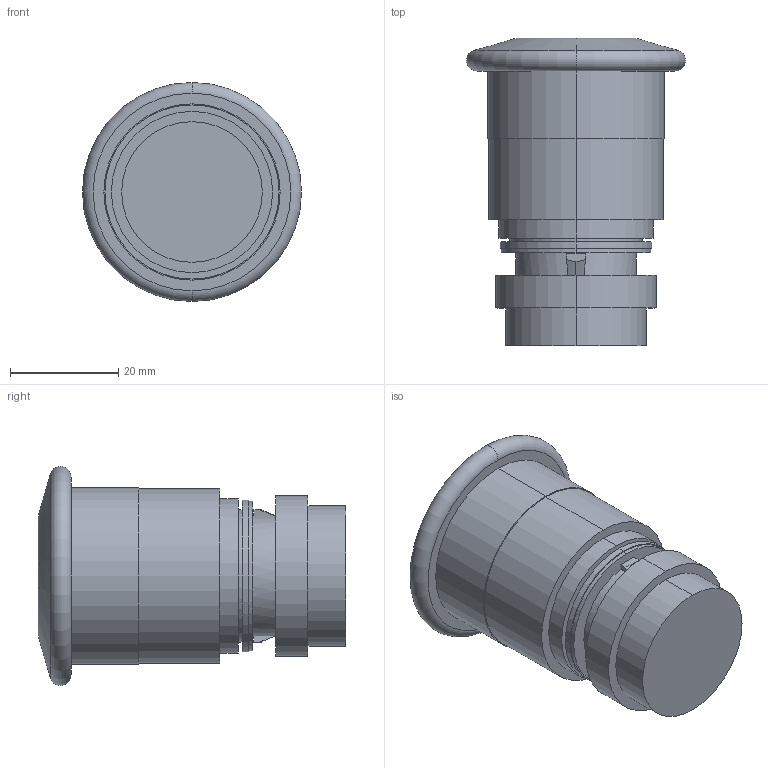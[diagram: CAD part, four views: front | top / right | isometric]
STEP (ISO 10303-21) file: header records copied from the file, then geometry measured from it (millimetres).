
FILE_DESCRIPTION (( 'STEP AP203' ), '1' );
FILE_NAME ('BS3P45.STEP', '2013-10-07T08:46:21', ( 'edv' ), ( '' ), 'SwSTEP 2.0', 'SolidWorks 2013', '' );
FILE_SCHEMA (( 'CONFIG_CONTROL_DESIGN' ));
Length unit declared in the file: millimetre
Products named in the file (1): BS3P45
Bounding box: 40.5 x 56.9 x 40.5 mm (x, y, z)
Volume: 42309.3 mm3; surface area: 8571 mm2
Topology: 1 solids, 1 shells, 46 faces, 97 edges, 62 vertices
Faces by surface type: plane 19, cylinder 18, cone 5, torus 4
Entity records: 1342 total; most frequent: DIRECTION 243, CARTESIAN_POINT 225, ORIENTED_EDGE 194, AXIS2_PLACEMENT_3D 102, EDGE_CURVE 97, VERTEX_POINT 62, CIRCLE 55, EDGE_LOOP 55
